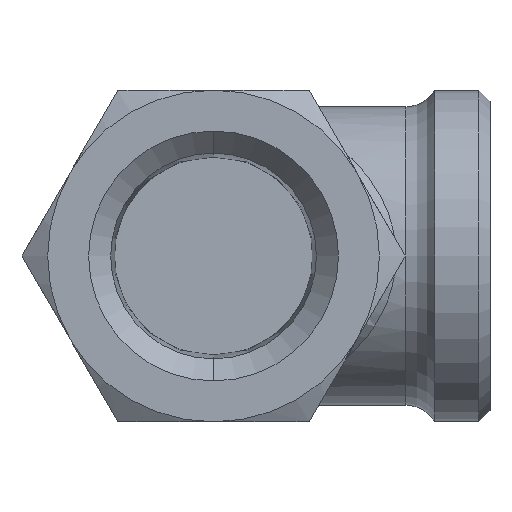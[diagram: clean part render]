
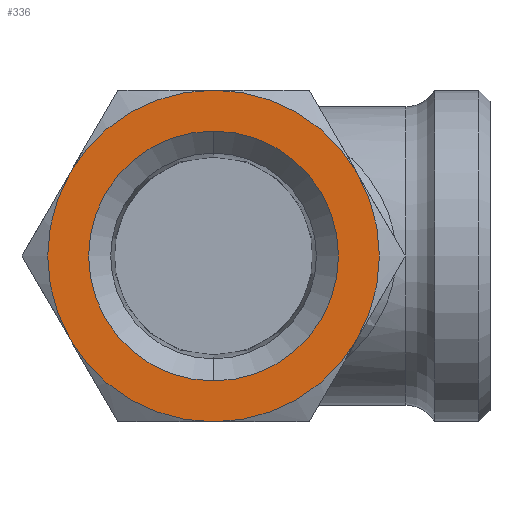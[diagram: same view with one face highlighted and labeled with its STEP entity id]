
A CAD part, left-side view. The second image highlights one B-rep face of the part: STEP entity #336.
In plain terms, the highlighted planar face has unit normal (-1, 0, 0).
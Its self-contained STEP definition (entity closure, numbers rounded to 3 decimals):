
#8 = CARTESIAN_POINT ( 'NONE',  ( -50., 0., 0. ) ) ;
#28 = VERTEX_POINT ( 'NONE', #3366 ) ;
#62 = EDGE_CURVE ( 'NONE', #28, #2636, #1549, .T. ) ;
#199 = EDGE_CURVE ( 'NONE', #1658, #3730, #2883, .T. ) ;
#298 = DIRECTION ( 'NONE',  ( -1., 0., 0. ) ) ;
#309 = ORIENTED_EDGE ( 'NONE', *, *, #62, .F. ) ;
#336 = ADVANCED_FACE ( 'NONE', ( #1309, #745 ), #3065, .F. ) ;
#447 = CIRCLE ( 'NONE', #816, 15. ) ;
#461 = CARTESIAN_POINT ( 'NONE',  ( -50., 0., 0. ) ) ;
#480 = DIRECTION ( 'NONE',  ( -1., 0., 0. ) ) ;
#638 = CARTESIAN_POINT ( 'NONE',  ( -50., 0., -15. ) ) ;
#745 = FACE_OUTER_BOUND ( 'NONE', #2231, .T. ) ;
#769 = DIRECTION ( 'NONE',  ( 1., 0., 0. ) ) ;
#816 = AXIS2_PLACEMENT_3D ( 'NONE', #3336, #2790, #1033 ) ;
#859 = CARTESIAN_POINT ( 'NONE',  ( -50., 0., 0. ) ) ;
#918 = VERTEX_POINT ( 'NONE', #2077 ) ;
#929 = CIRCLE ( 'NONE', #1347, 15. ) ;
#1029 = ORIENTED_EDGE ( 'NONE', *, *, #199, .F. ) ;
#1033 = DIRECTION ( 'NONE',  ( 0., 1., 0. ) ) ;
#1037 = DIRECTION ( 'NONE',  ( 0., 1., 0. ) ) ;
#1165 = ORIENTED_EDGE ( 'NONE', *, *, #3377, .F. ) ;
#1309 = FACE_BOUND ( 'NONE', #1818, .T. ) ;
#1335 = CARTESIAN_POINT ( 'NONE',  ( -50., 12.99, -7.5 ) ) ;
#1336 = CARTESIAN_POINT ( 'NONE',  ( -50., 12.99, 7.5 ) ) ;
#1347 = AXIS2_PLACEMENT_3D ( 'NONE', #3375, #2501, #1958 ) ;
#1355 = DIRECTION ( 'NONE',  ( 0., 1., 0. ) ) ;
#1549 = CIRCLE ( 'NONE', #2529, 11.3 ) ;
#1591 = CARTESIAN_POINT ( 'NONE',  ( -50., 0., 15. ) ) ;
#1610 = AXIS2_PLACEMENT_3D ( 'NONE', #8, #298, #1772 ) ;
#1658 = VERTEX_POINT ( 'NONE', #1335 ) ;
#1671 = EDGE_CURVE ( 'NONE', #2258, #3085, #447, .T. ) ;
#1698 = EDGE_CURVE ( 'NONE', #918, #2282, #929, .T. ) ;
#1715 = CARTESIAN_POINT ( 'NONE',  ( -50., 0., 0. ) ) ;
#1772 = DIRECTION ( 'NONE',  ( 0., 0., 1. ) ) ;
#1813 = AXIS2_PLACEMENT_3D ( 'NONE', #461, #2212, #2684 ) ;
#1818 = EDGE_LOOP ( 'NONE', ( #1165, #309 ) ) ;
#1915 = CIRCLE ( 'NONE', #3066, 15. ) ;
#1958 = DIRECTION ( 'NONE',  ( 0., 1., 0. ) ) ;
#1988 = AXIS2_PLACEMENT_3D ( 'NONE', #1715, #2361, #2882 ) ;
#2009 = ORIENTED_EDGE ( 'NONE', *, *, #3437, .T. ) ;
#2077 = CARTESIAN_POINT ( 'NONE',  ( -50., -12.99, -7.5 ) ) ;
#2212 = DIRECTION ( 'NONE',  ( 1., 0., 0. ) ) ;
#2231 = EDGE_LOOP ( 'NONE', ( #2009, #1029, #3420, #3223, #3405, #3545 ) ) ;
#2257 = CARTESIAN_POINT ( 'NONE',  ( -50., 0., 0. ) ) ;
#2258 = VERTEX_POINT ( 'NONE', #1591 ) ;
#2282 = VERTEX_POINT ( 'NONE', #638 ) ;
#2361 = DIRECTION ( 'NONE',  ( 1., 0., 0. ) ) ;
#2501 = DIRECTION ( 'NONE',  ( 1., 0., 0. ) ) ;
#2529 = AXIS2_PLACEMENT_3D ( 'NONE', #3087, #480, #3149 ) ;
#2562 = CARTESIAN_POINT ( 'NONE',  ( -50., 0., 11.3 ) ) ;
#2636 = VERTEX_POINT ( 'NONE', #2562 ) ;
#2639 = CARTESIAN_POINT ( 'NONE',  ( -50., -12.99, 7.5 ) ) ;
#2643 = DIRECTION ( 'NONE',  ( 0., 0., 1. ) ) ;
#2647 = CIRCLE ( 'NONE', #1610, 15. ) ;
#2684 = DIRECTION ( 'NONE',  ( 0., 1., 0. ) ) ;
#2739 = EDGE_CURVE ( 'NONE', #3085, #918, #1915, .T. ) ;
#2772 = AXIS2_PLACEMENT_3D ( 'NONE', #859, #3462, #2643 ) ;
#2790 = DIRECTION ( 'NONE',  ( 1., 0., 0. ) ) ;
#2882 = DIRECTION ( 'NONE',  ( 0., 1., 0. ) ) ;
#2883 = CIRCLE ( 'NONE', #3349, 15. ) ;
#3065 = PLANE ( 'NONE',  #1813 ) ;
#3066 = AXIS2_PLACEMENT_3D ( 'NONE', #3081, #3406, #1037 ) ;
#3081 = CARTESIAN_POINT ( 'NONE',  ( -50., 0., 0. ) ) ;
#3085 = VERTEX_POINT ( 'NONE', #2639 ) ;
#3087 = CARTESIAN_POINT ( 'NONE',  ( -50., 0., 0. ) ) ;
#3149 = DIRECTION ( 'NONE',  ( 0., 0., 1. ) ) ;
#3223 = ORIENTED_EDGE ( 'NONE', *, *, #1698, .F. ) ;
#3336 = CARTESIAN_POINT ( 'NONE',  ( -50., 0., 0. ) ) ;
#3349 = AXIS2_PLACEMENT_3D ( 'NONE', #2257, #769, #1355 ) ;
#3366 = CARTESIAN_POINT ( 'NONE',  ( -50., 0., -11.3 ) ) ;
#3372 = CIRCLE ( 'NONE', #2772, 11.3 ) ;
#3375 = CARTESIAN_POINT ( 'NONE',  ( -50., 0., 0. ) ) ;
#3377 = EDGE_CURVE ( 'NONE', #2636, #28, #3372, .T. ) ;
#3405 = ORIENTED_EDGE ( 'NONE', *, *, #2739, .F. ) ;
#3406 = DIRECTION ( 'NONE',  ( 1., 0., 0. ) ) ;
#3420 = ORIENTED_EDGE ( 'NONE', *, *, #3503, .F. ) ;
#3437 = EDGE_CURVE ( 'NONE', #2258, #3730, #2647, .T. ) ;
#3462 = DIRECTION ( 'NONE',  ( -1., 0., 0. ) ) ;
#3503 = EDGE_CURVE ( 'NONE', #2282, #1658, #3602, .T. ) ;
#3545 = ORIENTED_EDGE ( 'NONE', *, *, #1671, .F. ) ;
#3602 = CIRCLE ( 'NONE', #1988, 15. ) ;
#3730 = VERTEX_POINT ( 'NONE', #1336 ) ;
